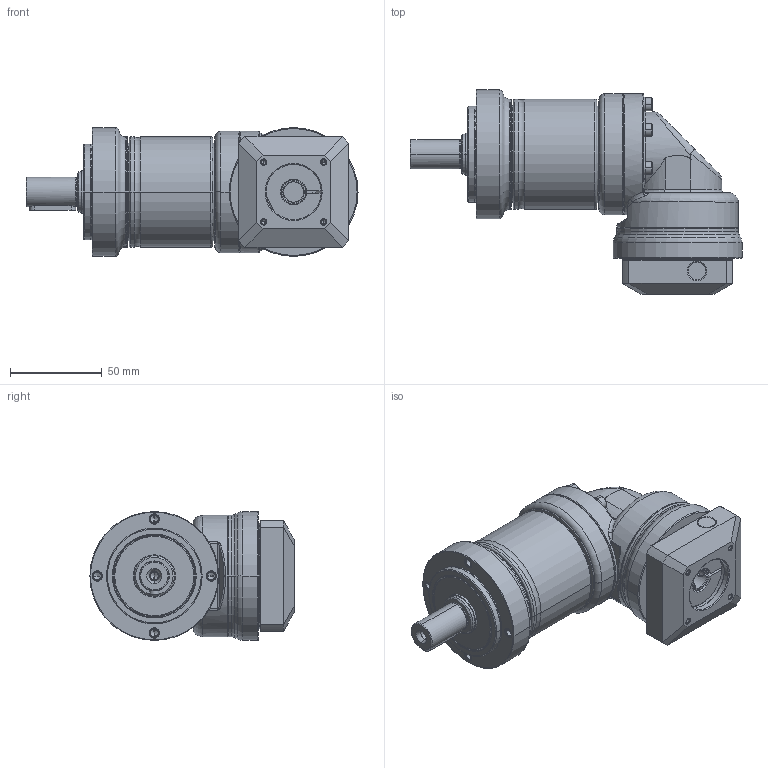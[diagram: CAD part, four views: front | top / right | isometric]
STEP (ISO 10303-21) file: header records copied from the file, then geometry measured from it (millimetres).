
FILE_DESCRIPTION((''),'2;1');
FILE_NAME('PE2R-070_2ST_11-P0411200101_ASM','2016-05-19T',('d00435'),(''),'PRO/ENGINEER BY PARAMETRIC TECHNOLOGY CORPORATION, 2008410','PRO/ENGINEER BY PARAMETRIC TECHNOLOGY CORPORATION, 2008410','');
FILE_SCHEMA(('CONFIG_CONTROL_DESIGN'));
Length unit declared in the file: millimetre
Products named in the file (12): P1323210001; P0251200001; P0350201001; P1349200001; P1017200001; P0713201001; P0503200005; P1350200101; P0411200101; P1702300001; 2111B104020; PE2R-070_2ST_11-P0411200101_ASM
Assembly tree (16 placements, depth 2):
  PE2R-070_2ST_11-P0411200101_ASM
    P1323210001
    P0251200001
    P0350201001
    P1349200001
    P1017200001
    P0713201001
    P0503200005
    P1350200101
    P0411200101
    P1702300001
    2111B104020  x6
Bounding box: 180.5 x 111 x 70 mm (x, y, z)
Volume: 377063.7 mm3; surface area: 118106.8 mm2
Topology: 16 solids, 32 shells, 860 faces, 1907 edges, 1123 vertices
Faces by surface type: cylinder 281, cone 226, plane 211, torus 110, bspline 32
Entity records: 25039 total; most frequent: CARTESIAN_POINT 9203, DIRECTION 3576, ORIENTED_EDGE 2982, AXIS2_PLACEMENT_3D 1526, EDGE_CURVE 1523, VERTEX_POINT 923, CIRCLE 825, EDGE_LOOP 798
